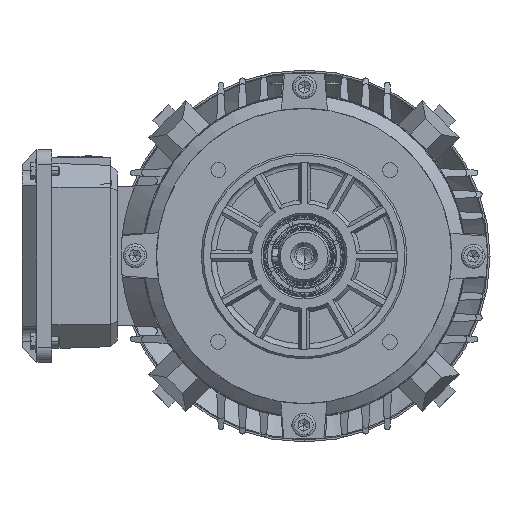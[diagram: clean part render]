
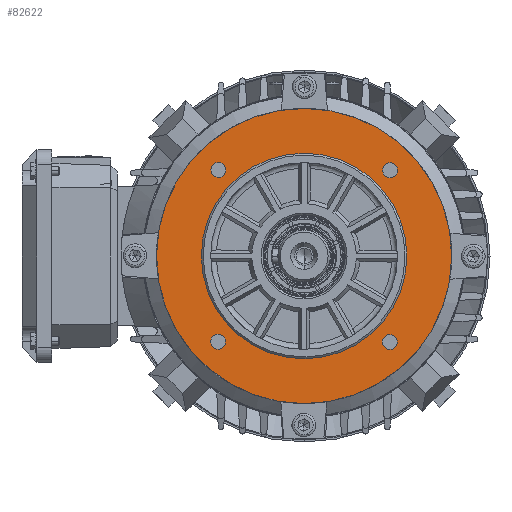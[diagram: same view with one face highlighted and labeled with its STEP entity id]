
A CAD part, left-side view. The second image highlights one B-rep face of the part: STEP entity #82622.
In plain terms, the highlighted planar face has unit normal (-1, 0, 0).
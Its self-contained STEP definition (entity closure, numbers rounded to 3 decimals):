
#80 = ORIENTED_EDGE ( 'NONE', *, *, #48422, .F. ) ;
#838 = DIRECTION ( 'NONE',  ( 0., -1., -0.002 ) ) ;
#1002 = FACE_BOUND ( 'NONE', #88969, .T. ) ;
#1992 = CIRCLE ( 'NONE', #95595, 4. ) ;
#4796 = CARTESIAN_POINT ( 'NONE',  ( -117.133, -29.224, 45.886 ) ) ;
#5542 = CIRCLE ( 'NONE', #40822, 4. ) ;
#8194 = FACE_OUTER_BOUND ( 'NONE', #78549, .T. ) ;
#9030 = CARTESIAN_POINT ( 'NONE',  ( -117.133, 62.7, 46.052 ) ) ;
#9123 = DIRECTION ( 'NONE',  ( 1., 0., 0. ) ) ;
#9408 = DIRECTION ( 'NONE',  ( 0., -1., -0.002 ) ) ;
#9437 = CIRCLE ( 'NONE', #106612, 4. ) ;
#9867 = DIRECTION ( 'NONE',  ( 0., 1., 0.002 ) ) ;
#10082 = DIRECTION ( 'NONE',  ( 0., 1., 0.002 ) ) ;
#10631 = EDGE_CURVE ( 'NONE', #55614, #102368, #106232, .T. ) ;
#11553 = CIRCLE ( 'NONE', #18611, 4. ) ;
#14763 = AXIS2_PLACEMENT_3D ( 'NONE', #45201, #77360, #26981 ) ;
#15064 = VERTEX_POINT ( 'NONE', #108199 ) ;
#15669 = DIRECTION ( 'NONE',  ( -1., 0., 0. ) ) ;
#16210 = AXIS2_PLACEMENT_3D ( 'NONE', #81120, #54526, #96072 ) ;
#16531 = EDGE_CURVE ( 'NONE', #102368, #55614, #11553, .T. ) ;
#17067 = DIRECTION ( 'NONE',  ( 0., -1., -0.002 ) ) ;
#17614 = FACE_BOUND ( 'NONE', #103302, .T. ) ;
#18611 = AXIS2_PLACEMENT_3D ( 'NONE', #38705, #72523, #23207 ) ;
#18788 = CARTESIAN_POINT ( 'NONE',  ( -117.133, 91.82, 0.142 ) ) ;
#21953 = EDGE_LOOP ( 'NONE', ( #80, #28765 ) ) ;
#23207 = DIRECTION ( 'NONE',  ( 0., 1., 0.002 ) ) ;
#23752 = VERTEX_POINT ( 'NONE', #35174 ) ;
#24816 = FACE_BOUND ( 'NONE', #69739, .T. ) ;
#25382 = VERTEX_POINT ( 'NONE', #70661 ) ;
#26981 = DIRECTION ( 'NONE',  ( 0., 1., 0.002 ) ) ;
#27087 = VERTEX_POINT ( 'NONE', #87803 ) ;
#27838 = DIRECTION ( 'NONE',  ( 0., 1., 0.002 ) ) ;
#28157 = DIRECTION ( 'NONE',  ( 0., 1., 0.002 ) ) ;
#28765 = ORIENTED_EDGE ( 'NONE', *, *, #51244, .F. ) ;
#30301 = DIRECTION ( 'NONE',  ( -1., 0., 0. ) ) ;
#30395 = CIRCLE ( 'NONE', #32144, 79. ) ;
#30409 = ORIENTED_EDGE ( 'NONE', *, *, #49095, .F. ) ;
#31015 = CARTESIAN_POINT ( 'NONE',  ( -117.133, -66.179, -0.142 ) ) ;
#31374 = CARTESIAN_POINT ( 'NONE',  ( -117.133, 58.7, 46.044 ) ) ;
#31844 = VERTEX_POINT ( 'NONE', #78034 ) ;
#32144 = AXIS2_PLACEMENT_3D ( 'NONE', #51166, #9123, #838 ) ;
#33103 = PLANE ( 'NONE',  #86221 ) ;
#33119 = ORIENTED_EDGE ( 'NONE', *, *, #33280, .F. ) ;
#33280 = EDGE_CURVE ( 'NONE', #31844, #27087, #5542, .T. ) ;
#34728 = FACE_BOUND ( 'NONE', #21953, .T. ) ;
#34844 = CARTESIAN_POINT ( 'NONE',  ( -117.133, 12.821, 0. ) ) ;
#35174 = CARTESIAN_POINT ( 'NONE',  ( -117.133, 54.865, -45.886 ) ) ;
#37211 = VERTEX_POINT ( 'NONE', #95282 ) ;
#37630 = EDGE_CURVE ( 'NONE', #86350, #25382, #102777, .T. ) ;
#38055 = CARTESIAN_POINT ( 'NONE',  ( -117.133, 58.7, 46.044 ) ) ;
#38705 = CARTESIAN_POINT ( 'NONE',  ( -117.133, -33.224, 45.879 ) ) ;
#40822 = AXIS2_PLACEMENT_3D ( 'NONE', #62413, #69121, #9867 ) ;
#41224 = EDGE_CURVE ( 'NONE', #84378, #15064, #60564, .T. ) ;
#42206 = EDGE_CURVE ( 'NONE', #27087, #31844, #9437, .T. ) ;
#42526 = ORIENTED_EDGE ( 'NONE', *, *, #10631, .F. ) ;
#43165 = DIRECTION ( 'NONE',  ( 1., 0., 0. ) ) ;
#44047 = ORIENTED_EDGE ( 'NONE', *, *, #88932, .T. ) ;
#45201 = CARTESIAN_POINT ( 'NONE',  ( -117.133, 58.865, -45.879 ) ) ;
#47683 = DIRECTION ( 'NONE',  ( 1., 0., 0. ) ) ;
#48422 = EDGE_CURVE ( 'NONE', #37211, #23752, #1992, .T. ) ;
#49095 = EDGE_CURVE ( 'NONE', #92790, #104478, #63907, .T. ) ;
#49479 = EDGE_CURVE ( 'NONE', #104478, #92790, #30395, .T. ) ;
#51166 = CARTESIAN_POINT ( 'NONE',  ( -117.133, 12.821, 0. ) ) ;
#51244 = EDGE_CURVE ( 'NONE', #23752, #37211, #69602, .T. ) ;
#54526 = DIRECTION ( 'NONE',  ( 1., 0., 0. ) ) ;
#54885 = CARTESIAN_POINT ( 'NONE',  ( -117.133, 12.821, 0. ) ) ;
#55614 = VERTEX_POINT ( 'NONE', #4796 ) ;
#60041 = EDGE_CURVE ( 'NONE', #25382, #86350, #68542, .T. ) ;
#60217 = FACE_BOUND ( 'NONE', #63832, .T. ) ;
#60564 = CIRCLE ( 'NONE', #108286, 55. ) ;
#60788 = ORIENTED_EDGE ( 'NONE', *, *, #16531, .F. ) ;
#62413 = CARTESIAN_POINT ( 'NONE',  ( -117.133, -33.059, -46.044 ) ) ;
#63832 = EDGE_LOOP ( 'NONE', ( #95400, #44047 ) ) ;
#63907 = CIRCLE ( 'NONE', #16210, 79. ) ;
#68356 = AXIS2_PLACEMENT_3D ( 'NONE', #54885, #47683, #88658 ) ;
#68542 = CIRCLE ( 'NONE', #100313, 4. ) ;
#69121 = DIRECTION ( 'NONE',  ( -1., 0., 0. ) ) ;
#69602 = CIRCLE ( 'NONE', #14763, 4. ) ;
#69739 = EDGE_LOOP ( 'NONE', ( #84778, #33119 ) ) ;
#70661 = CARTESIAN_POINT ( 'NONE',  ( -117.133, 54.7, 46.037 ) ) ;
#71958 = ORIENTED_EDGE ( 'NONE', *, *, #49479, .F. ) ;
#72523 = DIRECTION ( 'NONE',  ( -1., 0., 0. ) ) ;
#75103 = CARTESIAN_POINT ( 'NONE',  ( -117.133, -42.179, -0.099 ) ) ;
#77360 = DIRECTION ( 'NONE',  ( -1., 0., 0. ) ) ;
#77683 = CARTESIAN_POINT ( 'NONE',  ( -117.133, -33.059, -46.044 ) ) ;
#78034 = CARTESIAN_POINT ( 'NONE',  ( -117.133, -37.059, -46.052 ) ) ;
#78549 = EDGE_LOOP ( 'NONE', ( #30409, #71958 ) ) ;
#80038 = ORIENTED_EDGE ( 'NONE', *, *, #37630, .F. ) ;
#80162 = DIRECTION ( 'NONE',  ( -1., 0., 0. ) ) ;
#81120 = CARTESIAN_POINT ( 'NONE',  ( -117.133, 12.821, 0. ) ) ;
#82622 = ADVANCED_FACE ( 'NONE', ( #8194, #1002, #17614, #34728, #24816, #60217 ), #33103, .F. ) ;
#84378 = VERTEX_POINT ( 'NONE', #75103 ) ;
#84778 = ORIENTED_EDGE ( 'NONE', *, *, #42206, .F. ) ;
#85537 = ORIENTED_EDGE ( 'NONE', *, *, #60041, .F. ) ;
#86221 = AXIS2_PLACEMENT_3D ( 'NONE', #100095, #109502, #17067 ) ;
#86350 = VERTEX_POINT ( 'NONE', #9030 ) ;
#87803 = CARTESIAN_POINT ( 'NONE',  ( -117.133, -29.059, -46.037 ) ) ;
#88658 = DIRECTION ( 'NONE',  ( 0., -1., -0.002 ) ) ;
#88932 = EDGE_CURVE ( 'NONE', #15064, #84378, #96601, .T. ) ;
#88969 = EDGE_LOOP ( 'NONE', ( #42526, #60788 ) ) ;
#89014 = CARTESIAN_POINT ( 'NONE',  ( -117.133, 58.865, -45.879 ) ) ;
#91474 = CARTESIAN_POINT ( 'NONE',  ( -117.133, -33.224, 45.879 ) ) ;
#92120 = AXIS2_PLACEMENT_3D ( 'NONE', #38055, #80162, #28157 ) ;
#92790 = VERTEX_POINT ( 'NONE', #31015 ) ;
#95282 = CARTESIAN_POINT ( 'NONE',  ( -117.133, 62.865, -45.872 ) ) ;
#95400 = ORIENTED_EDGE ( 'NONE', *, *, #41224, .T. ) ;
#95595 = AXIS2_PLACEMENT_3D ( 'NONE', #89014, #98976, #106210 ) ;
#96072 = DIRECTION ( 'NONE',  ( 0., -1., -0.002 ) ) ;
#96601 = CIRCLE ( 'NONE', #68356, 55. ) ;
#97811 = DIRECTION ( 'NONE',  ( 0., 1., 0.002 ) ) ;
#98976 = DIRECTION ( 'NONE',  ( -1., 0., 0. ) ) ;
#100095 = CARTESIAN_POINT ( 'NONE',  ( -117.133, 12.919, -55. ) ) ;
#100313 = AXIS2_PLACEMENT_3D ( 'NONE', #31374, #30301, #97811 ) ;
#100885 = AXIS2_PLACEMENT_3D ( 'NONE', #91474, #15669, #10082 ) ;
#102368 = VERTEX_POINT ( 'NONE', #102658 ) ;
#102658 = CARTESIAN_POINT ( 'NONE',  ( -117.133, -37.224, 45.872 ) ) ;
#102777 = CIRCLE ( 'NONE', #92120, 4. ) ;
#103302 = EDGE_LOOP ( 'NONE', ( #80038, #85537 ) ) ;
#103677 = DIRECTION ( 'NONE',  ( -1., 0., 0. ) ) ;
#104478 = VERTEX_POINT ( 'NONE', #18788 ) ;
#106210 = DIRECTION ( 'NONE',  ( 0., 1., 0.002 ) ) ;
#106232 = CIRCLE ( 'NONE', #100885, 4. ) ;
#106612 = AXIS2_PLACEMENT_3D ( 'NONE', #77683, #103677, #27838 ) ;
#108199 = CARTESIAN_POINT ( 'NONE',  ( -117.133, 67.82, 0.099 ) ) ;
#108286 = AXIS2_PLACEMENT_3D ( 'NONE', #34844, #43165, #9408 ) ;
#109502 = DIRECTION ( 'NONE',  ( 1., 0., 0. ) ) ;
